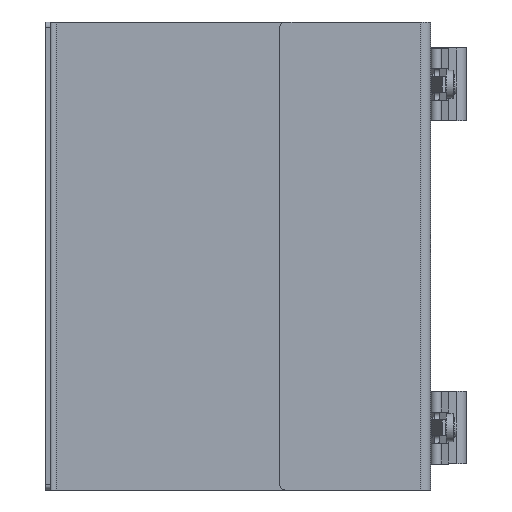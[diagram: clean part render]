
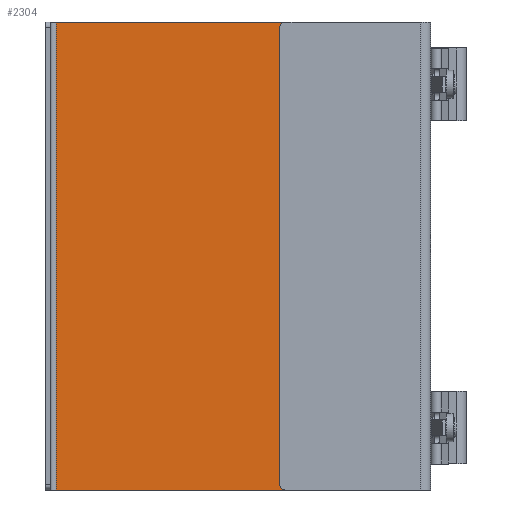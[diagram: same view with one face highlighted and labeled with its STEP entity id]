
A CAD part, left-side view. The second image highlights one B-rep face of the part: STEP entity #2304.
In plain terms, the highlighted planar face has unit normal (-1, 0, 0).
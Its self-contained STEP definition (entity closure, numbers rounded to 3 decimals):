
#128=PLANE('',#2543);
#206=FACE_OUTER_BOUND('',#340,.T.);
#340=EDGE_LOOP('',(#1627,#1628,#1629,#1630));
#507=LINE('',#3583,#701);
#508=LINE('',#3585,#702);
#509=LINE('',#3587,#703);
#510=LINE('',#3588,#704);
#701=VECTOR('',#2875,10.);
#702=VECTOR('',#2876,10.);
#703=VECTOR('',#2877,10.);
#704=VECTOR('',#2878,10.);
#1008=VERTEX_POINT('',#3578);
#1009=VERTEX_POINT('',#3582);
#1010=VERTEX_POINT('',#3584);
#1011=VERTEX_POINT('',#3586);
#1252=EDGE_CURVE('',#1009,#1008,#507,.T.);
#1253=EDGE_CURVE('',#1010,#1009,#508,.T.);
#1254=EDGE_CURVE('',#1010,#1011,#509,.T.);
#1255=EDGE_CURVE('',#1008,#1011,#510,.T.);
#1627=ORIENTED_EDGE('',*,*,#1252,.F.);
#1628=ORIENTED_EDGE('',*,*,#1253,.F.);
#1629=ORIENTED_EDGE('',*,*,#1254,.T.);
#1630=ORIENTED_EDGE('',*,*,#1255,.F.);
#2304=ADVANCED_FACE('',(#206),#128,.T.);
#2543=AXIS2_PLACEMENT_3D('',#3581,#2873,#2874);
#2873=DIRECTION('center_axis',(-1.,0.,0.));
#2874=DIRECTION('ref_axis',(0.,0.,
-1.));
#2875=DIRECTION('',(0.,0.,1.));
#2876=DIRECTION('',(0.,1.,0.));
#2877=DIRECTION('',(0.,0.,1.));
#2878=DIRECTION('',(0.,-1.,0.));
#3578=CARTESIAN_POINT('',(22.5,35.,0.));
#3581=CARTESIAN_POINT('Origin',(22.5,-14.131,-45.));
#3582=CARTESIAN_POINT('',(22.5,35.,-90.));
#3583=CARTESIAN_POINT('',(22.5,35.,-45.));
#3584=CARTESIAN_POINT('',(22.5,-35.,-90.));
#3585=CARTESIAN_POINT('',(22.5,37.262,-90.));
#3586=CARTESIAN_POINT('',(22.5,-35.,0.));
#3587=CARTESIAN_POINT('',(22.5,-35.,-45.));
#3588=CARTESIAN_POINT('',(22.5,-109.524,0.));
